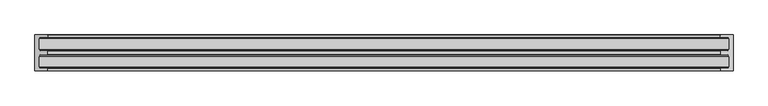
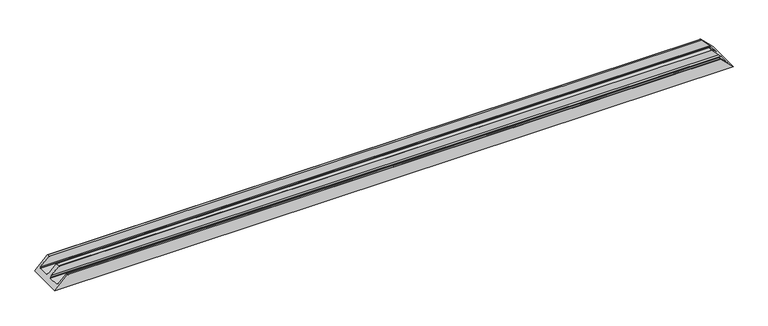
"""IFC4 building model written with IfcOpenShell, lengths in millimetres: proxy geometry, Weiku - Montante - Caixilho duplo 02.3.02.409 : Weiku - Montante - Caixilho duplo 02.3.02.409."""

from ifc_helpers import new_model, si_unit, frame, origin, place, context, project, spatial, ellipse_curve, source, transform, mapped, element, save
from ifc_brep_helpers import plane_surface, cylinder_surface, advanced_brep


def generic_models_d2d54a82(model_context):
    return source(origin(), model_context, "Body", "AdvancedBrep", [
        advanced_brep(
        [(-1508.0, 9.8, 18.2), (-1470.3, 9.8, 55.9), (1470.3, 9.8, 55.9), (1508.0, 9.8, 18.2), (-1510.5000079, 63.85, 15.6999921), (-1510.5000079, 15.05, 15.6999921), (1510.5000079, 15.05, 15.6999921), (1510.5000079, 63.85, 15.6999921), (-1470.3000055, 69.1, 55.8999945), (-1502.3700642, 69.1, 23.8299358), (1502.3700642, 69.1, 23.8299358), (1470.3000055, 69.1, 55.8999945), (-1469.8000055, 86.65, 56.3999945), (-1469.8000055, 69.6, 56.3999945), (1469.8000055, 69.6, 56.3999945), (1469.8000055, 86.65, 56.3999945), (-1502.4236827, 87.15, 23.7763173), (-1470.3000055, 87.15, 55.8999945), (1470.3000055, 87.15, 55.8999945), (1502.4236827, 87.15, 23.7763173), (-1526.2, 156.2000166, 0.0), (1526.2, 156.2000166, 0.0), (1526.2, 0.0, 0.0), (-1526.2, 0.0, 0.0), (1470.3, 0.0, 55.9), (-1470.3, 0.0, 55.9), (-1469.8, 9.3, 56.4), (-1469.8, 0.5, 56.4), (1469.8, 0.5, 56.4), (1469.8, 9.3, 56.4), (-1508.0, 15.05, 18.2), (-1508.0, 63.85, 18.2), (-1508.0000178, 92.3500166, 18.1999822), (-1510.5000079, 92.3500166, 15.6999921), (-1510.5000079, 141.1500166, 15.6999921), (-1508.0, 141.1500166, 18.2), (-1508.0, 146.4000166, 18.2), (-1470.3, 146.4000166, 55.9), (-1469.8, 146.9000166, 56.4), (-1469.8, 155.7000166, 56.4), (-1470.3, 156.2000166, 55.9), (1470.3, 156.2000166, 55.9), (1469.8, 155.7000166, 56.4), (1469.8, 146.9000166, 56.4), (1470.3, 146.4000166, 55.9), (1508.0, 146.4000166, 18.2), (1508.0, 141.1500166, 18.2), (1510.5000079, 141.1500166, 15.6999921), (1510.5000079, 92.3500166, 15.6999921), (1508.0000178, 92.3500166, 18.1999822), (1508.0, 63.85, 18.2), (1508.0, 15.05, 18.2)],
        [
            (0, 1),
            (1, 2),
            (2, 3),
            (3, 0),
            (4, 5),
            (5, 6),
            (6, 7),
            (7, 4),
            (8, 9),
            (9, 10),
            (10, 11),
            (11, 8),
            (12, 13),
            (13, 14),
            (14, 15),
            (15, 12),
            (16, 17),
            (17, 18),
            (18, 19),
            (19, 16),
            (20, 21),
            (21, 22),
            (22, 23),
            (23, 20),
            (22, 24),
            (24, 25),
            (25, 23),
            (26, 27),
            (27, 28),
            (28, 29),
            (29, 26),
            (0, 30),
            (30, 5),
            (4, 31),
            (31, 9),
            (8, 13, ellipse_curve(frame((-1470.3000055, 69.6, 55.8999945), z_axis=(-0.7071067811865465, 0.0, 0.7071067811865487), x_axis=(-0.7071067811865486, 0.0, -0.7071067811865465)), 0.7071068, 0.5)),
            (12, 17, ellipse_curve(frame((-1470.3000055, 86.65, 55.8999945), z_axis=(-0.7071067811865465, 0.0, 0.7071067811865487), x_axis=(-0.7071067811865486, 0.0, -0.7071067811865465)), 0.7071068, 0.5)),
            (16, 32),
            (32, 33),
            (33, 34),
            (34, 35),
            (35, 36),
            (36, 37),
            (37, 38, ellipse_curve(frame((-1470.3, 146.9000166, 55.9), z_axis=(-0.7071067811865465, 0.0, 0.7071067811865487), x_axis=(-0.7071067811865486, 0.0, -0.7071067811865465)), 0.7071068, 0.5)),
            (38, 39),
            (39, 40, ellipse_curve(frame((-1470.3, 155.7000166, 55.9), z_axis=(-0.7071067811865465, 0.0, 0.7071067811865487), x_axis=(-0.7071067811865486, 0.0, -0.7071067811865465)), 0.7071068, 0.5)),
            (40, 20),
            (25, 27, ellipse_curve(frame((-1470.3, 0.5, 55.9), z_axis=(-0.7071067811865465, 0.0, 0.7071067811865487), x_axis=(-0.7071067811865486, 0.0, -0.7071067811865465)), 0.7071068, 0.5)),
            (26, 1, ellipse_curve(frame((-1470.3, 9.3, 55.9), z_axis=(-0.7071067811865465, 0.0, 0.7071067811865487), x_axis=(-0.7071067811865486, 0.0, -0.7071067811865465)), 0.7071068, 0.5)),
            (2, 29, ellipse_curve(frame((1470.3, 9.3, 55.9), z_axis=(0.7071067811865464, 0.0, 0.7071067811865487), x_axis=(-0.7071067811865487, 0.0, 0.7071067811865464)), 0.7071068, 0.5)),
            (28, 24, ellipse_curve(frame((1470.3, 0.5, 55.9), z_axis=(0.7071067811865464, 0.0, 0.7071067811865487), x_axis=(-0.7071067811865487, 0.0, 0.7071067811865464)), 0.7071068, 0.5)),
            (21, 41),
            (41, 42, ellipse_curve(frame((1470.3, 155.7000166, 55.9), z_axis=(0.7071067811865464, 0.0, 0.7071067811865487), x_axis=(-0.7071067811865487, 0.0, 0.7071067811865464)), 0.7071068, 0.5)),
            (42, 43),
            (43, 44, ellipse_curve(frame((1470.3, 146.9000166, 55.9), z_axis=(0.7071067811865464, 0.0, 0.7071067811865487), x_axis=(-0.7071067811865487, 0.0, 0.7071067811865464)), 0.7071068, 0.5)),
            (44, 45),
            (45, 46),
            (46, 47),
            (47, 48),
            (48, 49),
            (49, 19),
            (18, 15, ellipse_curve(frame((1470.3000055, 86.65, 55.8999945), z_axis=(0.7071067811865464, 0.0, 0.7071067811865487), x_axis=(-0.7071067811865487, 0.0, 0.7071067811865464)), 0.7071068, 0.5)),
            (14, 11, ellipse_curve(frame((1470.3000055, 69.6, 55.8999945), z_axis=(0.7071067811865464, 0.0, 0.7071067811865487), x_axis=(-0.7071067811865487, 0.0, 0.7071067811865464)), 0.7071068, 0.5)),
            (10, 50),
            (50, 7),
            (6, 51),
            (51, 3),
            (51, 30),
            (50, 31),
            (49, 32),
            (48, 33),
            (47, 34),
            (46, 35),
            (45, 36),
            (44, 37),
            (38, 43),
            (42, 39),
            (41, 40),
        ],
        [
            plane_surface(frame((-1526.2, 9.8, 55.9), z_axis=(0.0, 1.0, 0.0), x_axis=(1.0, 0.0, 0.0))),
            plane_surface(frame((-1526.2, 15.05, 15.6999921), z_axis=(0.0, 0.0, 1.0), x_axis=(1.0, 0.0, 0.0))),
            plane_surface(frame((-1526.2, 69.1, 23.8299358), z_axis=(0.0, -1.0, 0.0), x_axis=(1.0, 0.0, 0.0))),
            plane_surface(frame((-1526.2, 69.6, 56.3999945), z_axis=(0.0, 0.0, 1.0), x_axis=(1.0, 0.0, 0.0))),
            plane_surface(frame((-1526.2, 87.15, 55.8999945), z_axis=(0.0, 1.0, 0.0), x_axis=(1.0, 0.0, 0.0))),
            plane_surface(frame((-1526.2, 156.2000166, 0.0), z_axis=(0.0, 0.0, -1.0), x_axis=(1.0, 0.0, 0.0))),
            plane_surface(frame((-1526.2, 0.0, 0.0), z_axis=(0.0, -1.0, 0.0), x_axis=(1.0, 0.0, 0.0))),
            plane_surface(frame((-1526.2, 0.5, 56.4), z_axis=(0.0, 0.0, 1.0), x_axis=(1.0, 0.0, 0.0))),
            plane_surface(frame((-1526.2, 0.0, 0.0), z_axis=(-0.7071067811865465, 0.0, 0.7071067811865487), x_axis=(0.0, 1.0, 0.0))),
            plane_surface(frame((1466.2, 0.0, 60.0), z_axis=(0.7071067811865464, 0.0, 0.7071067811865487), x_axis=(0.0, 1.0, 0.0))),
            plane_surface(frame((-1526.2, 9.8, 18.2), z_axis=(0.0, 0.0, 1.0), x_axis=(1.0, 0.0, 0.0))),
            plane_surface(frame((-1526.2, 15.05, 18.2), z_axis=(0.0, 1.0, 0.0), x_axis=(1.0, 0.0, 0.0))),
            plane_surface(frame((-1526.2, 63.85, 15.6999921), z_axis=(0.0, -1.0, 0.0), x_axis=(1.0, 0.0, 0.0))),
            plane_surface(frame((-1526.2, 63.85, 18.2), z_axis=(0.0, -0.7313537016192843, 0.6819983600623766), x_axis=(1.0, 0.0, 0.0))),
            cylinder_surface(frame((-1526.2, 86.65, 55.8999945), z_axis=(-1.0, 0.0, 0.0), x_axis=(0.0, 1.0, 0.0)), 0.5),
            cylinder_surface(frame((-1526.2, 0.5, 55.9), z_axis=(-1.0, 0.0, 0.0), x_axis=(0.0, 1.0, 0.0)), 0.5),
            plane_surface(frame((-1526.2, 87.15, 23.7763173), z_axis=(0.0, 0.7313537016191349, 0.6819983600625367), x_axis=(1.0, 0.0, 0.0))),
            plane_surface(frame((-1526.2, 92.3500166, 18.1999822), z_axis=(0.0, 1.0, 0.0), x_axis=(1.0, 0.0, 0.0))),
            plane_surface(frame((-1526.2, 92.3500166, 15.6999921), z_axis=(0.0, 0.0, 1.0), x_axis=(1.0, 0.0, 0.0))),
            plane_surface(frame((-1526.2, 141.1500166, 15.6999921), z_axis=(0.0, -1.0, 0.0), x_axis=(1.0, 0.0, 0.0))),
            plane_surface(frame((-1526.2, 141.1500166, 18.2), z_axis=(0.0, 0.0, 1.0), x_axis=(1.0, 0.0, 0.0))),
            plane_surface(frame((-1526.2, 146.4000166, 18.2), z_axis=(0.0, -1.0, 0.0), x_axis=(1.0, 0.0, 0.0))),
            plane_surface(frame((-1526.2, 146.9000166, 56.4), z_axis=(0.0, 0.0, 1.0), x_axis=(1.0, 0.0, 0.0))),
            cylinder_surface(frame((-1526.2, 155.7000166, 55.9), z_axis=(-1.0, 0.0, 0.0), x_axis=(0.0, -1.0, 0.0)), 0.5),
            plane_surface(frame((-1526.2, 156.2000166, 55.9), z_axis=(0.0, 1.0, 0.0), x_axis=(1.0, 0.0, 0.0))),
            cylinder_surface(frame((-1526.2, 9.3, 55.9), z_axis=(-1.0, 0.0, 0.0), x_axis=(0.0, 1.0, 0.0)), 0.5),
            cylinder_surface(frame((-1526.2, 69.6, 55.8999945), z_axis=(-1.0, 0.0, 0.0), x_axis=(0.0, 1.0, 0.0)), 0.5),
            cylinder_surface(frame((-1526.2, 146.9000166, 55.9), z_axis=(-1.0, 0.0, 0.0), x_axis=(0.0, 1.0, 0.0)), 0.5),
        ],
        [
            (0, [[1, 2, 3, 4]]),
            (1, [[5, 6, 7, 8]]),
            (2, [[9, 10, 11, 12]]),
            (3, [[13, 14, 15, 16]]),
            (4, [[17, 18, 19, 20]]),
            (5, [[21, 22, 23, 24]]),
            (6, [[-23, 25, 26, 27]]),
            (7, [[28, 29, 30, 31]]),
            (8, [[-1, 32, 33, -5, 34, 35, -9, 36, -13, 37, -17, 38, 39, 40, 41, 42, 43, 44, 45, 46, 47, -24, -27, 48, -28, 49]]),
            (9, [[-3, 50, -30, 51, -25, -22, 52, 53, 54, 55, 56, 57, 58, 59, 60, 61, -19, 62, -15, 63, -11, 64, 65, -7, 66, 67]]),
            (10, [[-32, -4, -67, 68]]),
            (11, [[-33, -68, -66, -6]]),
            (12, [[-34, -8, -65, 69]]),
            (13, [[-35, -69, -64, -10]]),
            (14, [[-37, -16, -62, -18]]),
            (15, [[-48, -26, -51, -29]]),
            (16, [[-38, -20, -61, 70]]),
            (17, [[-39, -70, -60, 71]]),
            (18, [[-40, -71, -59, 72]]),
            (19, [[-41, -72, -58, 73]]),
            (20, [[-42, -73, -57, 74]]),
            (21, [[-43, -74, -56, 75]]),
            (22, [[-45, 76, -54, 77]]),
            (23, [[-46, -77, -53, 78]]),
            (24, [[-21, -47, -78, -52]]),
            (25, [[-49, -31, -50, -2]]),
            (26, [[-36, -12, -63, -14]]),
            (27, [[-44, -75, -55, -76]]),
        ],
    ),
    ])


if __name__ == "__main__":
    model = new_model("IFC4")
    model_context = context("Model", 3, world=origin())
    ifc_project = project(units=[si_unit("LENGTHUNIT", "METRE", prefix="MILLI")], contexts=[model_context])
    site = spatial("IfcSite", under=ifc_project)
    building = spatial("IfcBuilding", under=site)
    placement = place(None, origin())
    generic_models_shape = generic_models_d2d54a82(model_context)
    element("IfcBuildingElementProxy", 1, Name="Weiku - Montante - Caixilho duplo 02.3.02.409 : Weiku - Montante - Caixilho duplo 02.3.02.409", ObjectType="Weiku - Montante - Caixilho duplo 02.3.02.409 : Weiku - Montante - Caixilho duplo 02.3.02.409", at=placement, inside=building, context=model_context, shape_type="MappedRepresentation", body=[
        mapped(generic_models_shape, transform((0.0, 0.0, 0.0), x_axis=(1.0, 0.0, 0.0), y_axis=(0.0, 1.0, 0.0), z_axis=(0.0, 0.0, 1.0))),
    ])
    save(model, "model.ifc")
